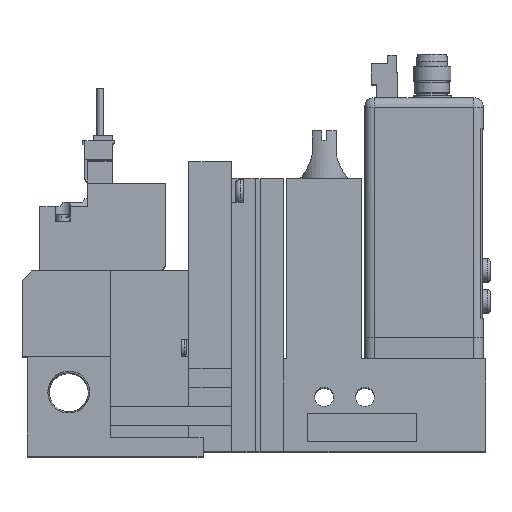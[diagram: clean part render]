
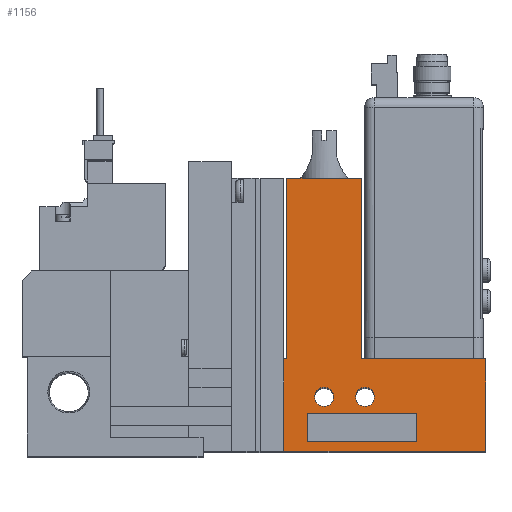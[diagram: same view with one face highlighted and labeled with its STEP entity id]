
A CAD part, top view. The second image highlights one B-rep face of the part: STEP entity #1156.
In plain terms, the highlighted planar face has unit normal (0, 0, 1).
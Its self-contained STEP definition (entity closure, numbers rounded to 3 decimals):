
#1156=ADVANCED_FACE('',(#5155,#5156,#5157,#5158),#5159,.T.);
#5155=FACE_BOUND('',#13795,.T.);
#5156=FACE_BOUND('',#13796,.T.);
#5157=FACE_BOUND('',#13797,.T.);
#5158=FACE_OUTER_BOUND('',#13798,.T.);
#5159=PLANE('',#13799);
#13795=EDGE_LOOP('',(#24067,#24068,#24069,#24070));
#13796=EDGE_LOOP('',(#24071));
#13797=EDGE_LOOP('',(#24072));
#13798=EDGE_LOOP('',(#24073,#24074,#24075,#24076,#24077,#24078,#24079,#24080));
#13799=AXIS2_PLACEMENT_3D('',#24081,#24082,#24083);
#24067=ORIENTED_EDGE('',*,*,#52279,.T.);
#24068=ORIENTED_EDGE('',*,*,#52280,.T.);
#24069=ORIENTED_EDGE('',*,*,#52281,.T.);
#24070=ORIENTED_EDGE('',*,*,#52282,.T.);
#24071=ORIENTED_EDGE('',*,*,#52278,.T.);
#24072=ORIENTED_EDGE('',*,*,#52283,.T.);
#24073=ORIENTED_EDGE('',*,*,#52284,.F.);
#24074=ORIENTED_EDGE('',*,*,#52276,.T.);
#24075=ORIENTED_EDGE('',*,*,#52285,.T.);
#24076=ORIENTED_EDGE('',*,*,#52286,.T.);
#24077=ORIENTED_EDGE('',*,*,#52287,.T.);
#24078=ORIENTED_EDGE('',*,*,#52288,.T.);
#24079=ORIENTED_EDGE('',*,*,#52289,.T.);
#24080=ORIENTED_EDGE('',*,*,#52290,.T.);
#24081=CARTESIAN_POINT('',(0.0,0.0,10.0));
#24082=DIRECTION('',(0.0,0.0,1.0));
#24083=DIRECTION('',(1.0,0.0,0.0));
#52276=EDGE_CURVE('',#63120,#63118,#63121,.T.);
#52278=EDGE_CURVE('',#63123,#63123,#63124,.T.);
#52279=EDGE_CURVE('',#63125,#63126,#63127,.T.);
#52280=EDGE_CURVE('',#63126,#63128,#63129,.T.);
#52281=EDGE_CURVE('',#63128,#63130,#63131,.T.);
#52282=EDGE_CURVE('',#63130,#63125,#63132,.T.);
#52283=EDGE_CURVE('',#63133,#63133,#63134,.T.);
#52284=EDGE_CURVE('',#63120,#63135,#63136,.T.);
#52285=EDGE_CURVE('',#63118,#63137,#63138,.T.);
#52286=EDGE_CURVE('',#63137,#63139,#63140,.T.);
#52287=EDGE_CURVE('',#63139,#63141,#63142,.T.);
#52288=EDGE_CURVE('',#63141,#63143,#63144,.T.);
#52289=EDGE_CURVE('',#63143,#63145,#63146,.T.);
#52290=EDGE_CURVE('',#63145,#63135,#63147,.T.);
#63118=VERTEX_POINT('',#79203);
#63120=VERTEX_POINT('',#79206);
#63121=LINE('',#79207,#79208);
#63123=VERTEX_POINT('',#79211);
#63124=CIRCLE('',#79212,2.0);
#63125=VERTEX_POINT('',#79213);
#63126=VERTEX_POINT('',#79214);
#63127=LINE('',#79215,#79216);
#63128=VERTEX_POINT('',#79217);
#63129=LINE('',#79218,#79219);
#63130=VERTEX_POINT('',#79220);
#63131=LINE('',#79221,#79222);
#63132=LINE('',#79223,#79224);
#63133=VERTEX_POINT('',#79225);
#63134=CIRCLE('',#79226,2.0);
#63135=VERTEX_POINT('',#79227);
#63136=LINE('',#79228,#79229);
#63137=VERTEX_POINT('',#79230);
#63138=LINE('',#79231,#79232);
#63139=VERTEX_POINT('',#79233);
#63140=LINE('',#79234,#79235);
#63141=VERTEX_POINT('',#79236);
#63142=LINE('',#79237,#79238);
#63143=VERTEX_POINT('',#79239);
#63144=LINE('',#79240,#79241);
#63145=VERTEX_POINT('',#79242);
#63146=LINE('',#79243,#79244);
#63147=LINE('',#79245,#79246);
#79203=CARTESIAN_POINT('',(97.6,0.0,10.0));
#79206=CARTESIAN_POINT('',(55.1,0.0,10.0));
#79207=CARTESIAN_POINT('',(18.6,0.0,10.0));
#79208=VECTOR('',#102357,1.0);
#79211=CARTESIAN_POINT('',(65.6,11.5,10.0));
#79212=AXIS2_PLACEMENT_3D('',#102359,#102360,#102361);
#79213=CARTESIAN_POINT('',(60.1,2.0,10.0));
#79214=CARTESIAN_POINT('',(60.1,8.0,10.0));
#79215=CARTESIAN_POINT('',(60.1,0.0,10.0));
#79216=VECTOR('',#102362,1.0);
#79217=CARTESIAN_POINT('',(83.1,8.0,10.0));
#79218=CARTESIAN_POINT('',(0.0,8.0,10.0));
#79219=VECTOR('',#102363,1.0);
#79220=CARTESIAN_POINT('',(83.1,2.0,10.0));
#79221=CARTESIAN_POINT('',(83.1,0.0,10.0));
#79222=VECTOR('',#102364,1.0);
#79223=CARTESIAN_POINT('',(0.0,2.0,10.0));
#79224=VECTOR('',#102365,1.0);
#79225=CARTESIAN_POINT('',(74.2,11.5,10.0));
#79226=AXIS2_PLACEMENT_3D('',#102366,#102367,#102368);
#79227=CARTESIAN_POINT('',(55.1,19.5,10.0));
#79228=CARTESIAN_POINT('',(55.1,0.0,10.0));
#79229=VECTOR('',#102369,1.0);
#79230=CARTESIAN_POINT('',(97.6,19.5,10.0));
#79231=CARTESIAN_POINT('',(97.6,0.0,10.0));
#79232=VECTOR('',#102370,1.0);
#79233=CARTESIAN_POINT('',(71.45,19.5,10.0));
#79234=CARTESIAN_POINT('',(97.6,19.5,10.0));
#79235=VECTOR('',#102371,1.0);
#79236=CARTESIAN_POINT('',(71.45,57.5,10.0));
#79237=CARTESIAN_POINT('',(71.45,19.5,10.0));
#79238=VECTOR('',#102372,1.0);
#79239=CARTESIAN_POINT('',(55.75,57.5,10.0));
#79240=CARTESIAN_POINT('',(71.45,57.5,10.0));
#79241=VECTOR('',#102373,1.0);
#79242=CARTESIAN_POINT('',(55.75,19.5,10.0));
#79243=CARTESIAN_POINT('',(55.75,57.5,10.0));
#79244=VECTOR('',#102374,1.0);
#79245=CARTESIAN_POINT('',(55.75,19.5,10.0));
#79246=VECTOR('',#102375,1.0);
#102357=DIRECTION('',(1.0,0.0,0.0));
#102359=CARTESIAN_POINT('',(63.6,11.5,10.0));
#102360=DIRECTION('',(0.0,0.0,-1.0));
#102361=DIRECTION('',(1.0,0.0,0.0));
#102362=DIRECTION('',(0.0,1.0,0.0));
#102363=DIRECTION('',(1.0,0.0,0.0));
#102364=DIRECTION('',(0.0,-1.0,0.0));
#102365=DIRECTION('',(-1.0,0.0,0.0));
#102366=CARTESIAN_POINT('',(72.2,11.5,10.0));
#102367=DIRECTION('',(0.0,0.0,-1.0));
#102368=DIRECTION('',(1.0,0.0,0.0));
#102369=DIRECTION('',(0.0,1.0,0.0));
#102370=DIRECTION('',(0.0,1.0,0.0));
#102371=DIRECTION('',(-1.0,0.0,0.0));
#102372=DIRECTION('',(0.0,1.0,0.0));
#102373=DIRECTION('',(-1.0,0.0,0.0));
#102374=DIRECTION('',(0.0,-1.0,0.0));
#102375=DIRECTION('',(-1.0,0.0,0.0));
